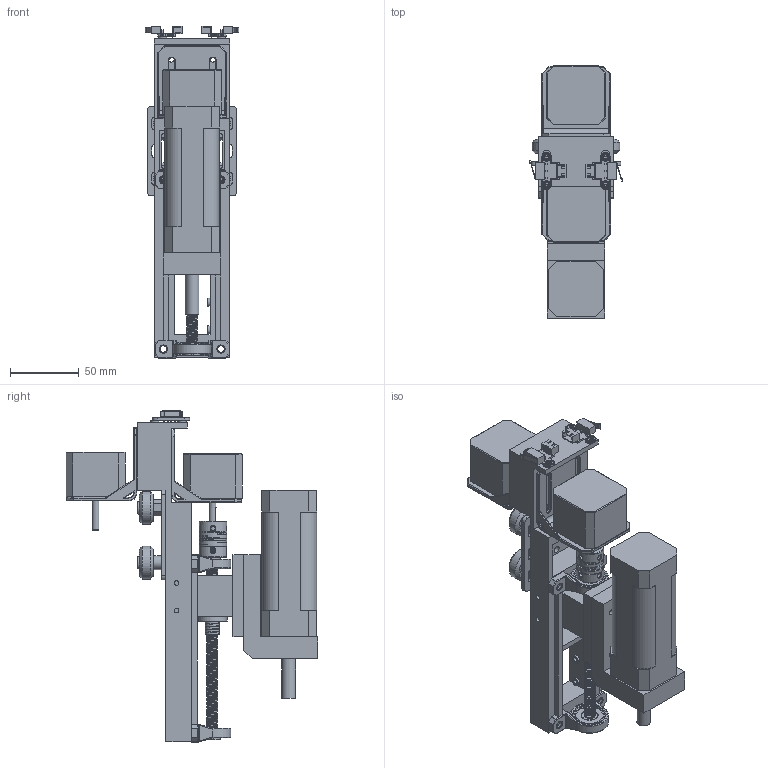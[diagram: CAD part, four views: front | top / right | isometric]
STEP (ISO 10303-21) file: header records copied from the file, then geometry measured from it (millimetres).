
FILE_DESCRIPTION(/* description */ ('STEP AP242 Edition 2','CAx-IF Rec.Pracs.---Representation and Presentation of Product Manufacturing Information (PMI)---4.0---2014-10-13','CAx-IF Rec.Pracs.---3D Tessellated Geometry---0.4---2014-09-14','2;1','CAx-IF Rec.Pracs.---User Defined Attributes---1.5---2016-08-15'),/* implementation_level */ '2;1');
FILE_NAME(/* name */ 'Full X-Axis and Spindle',/* time_stamp */ '2025-11-29T19:53:28Z',/* author */ (''),/* organization */ (''),/* preprocessor_version */ 'ST-DEVELOPER v20',/* originating_system */ 'ONSHAPE BY PTC INC, 1.207',/* authorisation */ ' ');
FILE_SCHEMA (('AP242_MANAGED_MODEL_BASED_3D_ENGINEERING_MIM_LF { 1 0 10303 442 3 1 4 }'));
Length unit declared in the file: metre
Products named in the file (29): Full X-Axis and Spindle; Limit Switch; Stepper Motor <1>; shaft; Part 1; stepper_bracket; Z-Axis Assembly <1>; Power Screw Bearing Part - KP08 SUPPORT BEARING-Edited; LeadScrew 8mm x 2mmPitch; T8_NUT_HOUSING; LeadScrew Nut 8mm x 2mmPitch; Spindle Assembly <1>; Gantry <1>; Eccentric Spacer 6mm v1; V-Slot Gantry Plate 20mm v1; Precision Shim 8 x 5 x 1 v1; Xtreme Solid V Wheel v1; Low Profile Screw M5 v1; Aluminum Spacer 6mm v1; Nylon Insert Lock Nut M5 v1; Ball Bearing 5 x 16 x 5 v1
Assembly tree (56 placements, depth 4):
  Full X-Axis and Spindle
    Limit Switch  x2
    Stepper Motor <1>
      shaft
    Part 1
    stepper_bracket
    Z-Axis Assembly <1>
      Power Screw Bearing Part - KP08 SUPPORT BEARING-Edited  x2
      LeadScrew 8mm x 2mmPitch
      Power Screw Bearing Part - KP08 SUPPORT BEARING-Edited  x2
      T8_NUT_HOUSING
      Power Screw Bearing Part - KP08 SUPPORT BEARING-Edited  x2
      Part 1
      Power Screw Bearing Part - KP08 SUPPORT BEARING-Edited  x2
      Stepper Motor <1>
        shaft
      Part 1
      LeadScrew Nut 8mm x 2mmPitch
      stepper_bracket
    Spindle Assembly <1>
      Part 1
      Part 1
    Gantry <1>
      Eccentric Spacer 6mm v1  x2
      V-Slot Gantry Plate 20mm v1
      Precision Shim 8 x 5 x 1 v1  x4
      Xtreme Solid V Wheel v1  x4
      Low Profile Screw M5 v1  x4
      Aluminum Spacer 6mm v1  x2
      Nylon Insert Lock Nut M5 v1  x4
      Ball Bearing 5 x 16 x 5 v1  x8
Bounding box: 68.56 x 183.7 x 242.19 mm (x, y, z)
Volume: 620086.2 mm3; surface area: 202692 mm2
Topology: 51 solids, 56 shells, 1830 faces, 4561 edges, 2936 vertices
Faces by surface type: plane 903, cylinder 532, cone 133, torus 110, bspline 88, sphere 64
Full cylindrical faces by diameter (mm): 1.5 x4, 1.8 x2, 2.075 x8, 2.5 x4, 3.3 x12, 3.5 x24, 4 x20, 4.2 x4, 4.25 x4, 4.9 x4, 5 x33, 5.04 x1, 5.1 x14, 5.293 x1, 5.3 x4, 5.433 x1, 5.5 x4, 5.502 x1, 6 x16, 6.5 x4, 7.11 x2, 7.2 x3, 7.5 x4, 8 x6, 8.05 x1, 8.6 x16, 9.4 x2, 10 x3, 10.2 x2, 10.5 x1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
Entity records: 42485 total; most frequent: CARTESIAN_POINT 16923, ORIENTED_EDGE 4882, DIRECTION 4758, EDGE_CURVE 2441, AXIS2_PLACEMENT_3D 1807, VERTEX_POINT 1780, EDGE_LOOP 1527, FACE_BOUND 1527
